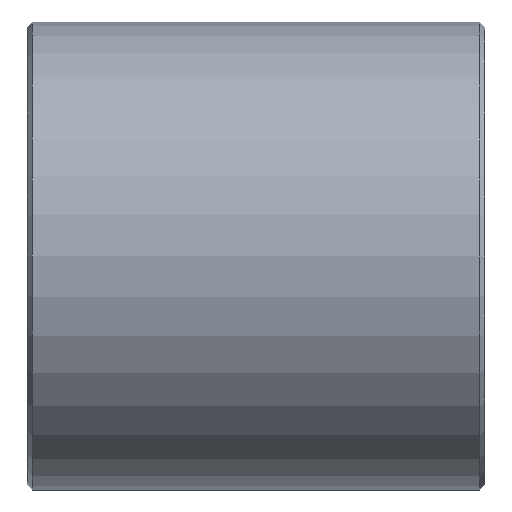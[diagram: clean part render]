
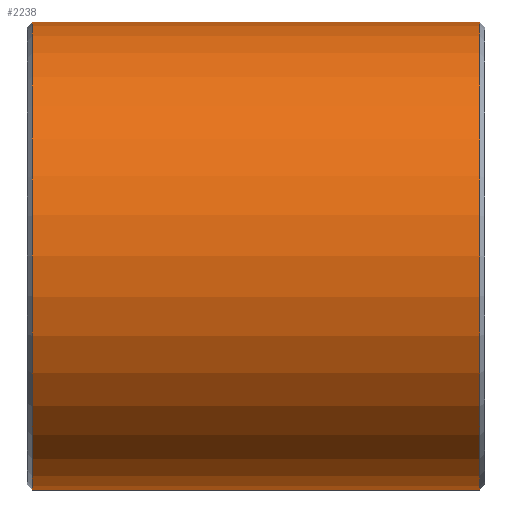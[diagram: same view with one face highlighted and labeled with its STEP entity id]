
A CAD part, front view. The second image highlights one B-rep face of the part: STEP entity #2238.
In plain terms, the highlighted cylindrical face has radius 22.5 mm (diameter 45 mm), a partial arc.
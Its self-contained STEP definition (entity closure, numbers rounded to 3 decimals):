
#91=DIRECTION('',(1.,0.,0.));
#92=VECTOR('',#91,43.);
#93=CARTESIAN_POINT('',(-21.5,0.,
-22.5));
#94=LINE('',#93,#92);
#139=CARTESIAN_POINT('',(21.5,0.,0.));
#140=DIRECTION('',(1.,0.,0.));
#141=DIRECTION('',(0.,0.,1.));
#142=AXIS2_PLACEMENT_3D('',#139,#140,#141);
#144=CARTESIAN_POINT('',(-21.5,0.,0.));
#145=DIRECTION('',(-1.,0.,0.));
#146=DIRECTION('',(0.,0.,-1.));
#147=AXIS2_PLACEMENT_3D('',#144,#145,#146);
#149=DIRECTION('',(1.,0.,0.));
#150=VECTOR('',#149,43.);
#151=CARTESIAN_POINT('',(-21.5,0.,
22.5));
#152=LINE('',#151,#150);
#2105=CARTESIAN_POINT('',(21.5,0.,22.5));
#2106=CARTESIAN_POINT('',(21.5,0.,-22.5));
#2107=VERTEX_POINT('',#2105);
#2108=VERTEX_POINT('',#2106);
#2113=CARTESIAN_POINT('',(-21.5,0.,-22.5));
#2114=CARTESIAN_POINT('',(-21.5,0.,22.5));
#2115=VERTEX_POINT('',#2113);
#2116=VERTEX_POINT('',#2114);
#2227=CARTESIAN_POINT('',(-22.,0.,0.));
#2228=DIRECTION('',(1.,0.,0.));
#2229=DIRECTION('',(0.,0.,-1.));
#2230=AXIS2_PLACEMENT_3D('',#2227,#2228,#2229);
#2231=CYLINDRICAL_SURFACE('',#2230,22.5);
#2232=ORIENTED_EDGE('',*,*,#2221,.T.);
#2233=ORIENTED_EDGE('',*,*,#2175,.F.);
#2234=ORIENTED_EDGE('',*,*,#2145,.T.);
#2235=ORIENTED_EDGE('',*,*,#2172,.T.);
#2236=EDGE_LOOP('',(#2232,#2233,#2234,#2235));
#2237=FACE_OUTER_BOUND('',#2236,.F.);
#2238=ADVANCED_FACE('',(#2237),#2231,.T.);
#143=CIRCLE('',#142,22.5);
#148=CIRCLE('',#147,22.5);
#2145=EDGE_CURVE('',#2115,#2116,#148,.T.);
#2172=EDGE_CURVE('',#2116,#2107,#152,.T.);
#2175=EDGE_CURVE('',#2115,#2108,#94,.T.);
#2221=EDGE_CURVE('',#2107,#2108,#143,.T.);
